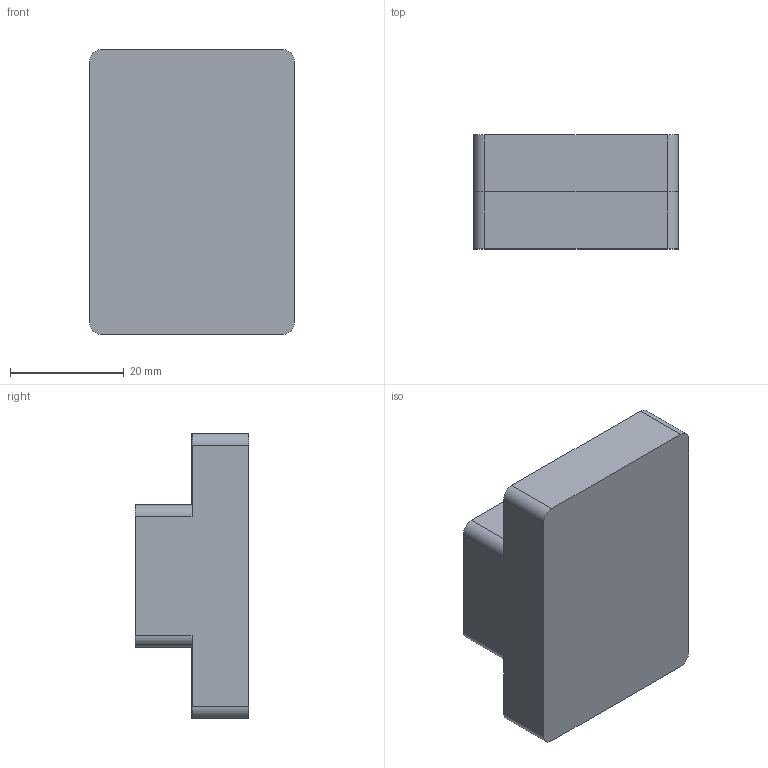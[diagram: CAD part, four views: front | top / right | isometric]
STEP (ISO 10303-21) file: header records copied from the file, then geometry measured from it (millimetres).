
FILE_DESCRIPTION (( 'STEP AP214' ), '1' );
FILE_NAME ('Example Press Out Tool FM and GM.STEP', '2025-02-24T16:01:03', ( '' ), ( '' ), 'SwSTEP 2.0', 'SolidWorks 2024', '' );
FILE_SCHEMA (( 'AUTOMOTIVE_DESIGN' ));
Length unit declared in the file: millimetre
Products named in the file (1): Example Press Out Tool FM and GM
Bounding box: 36 x 20 x 50 mm (x, y, z)
Volume: 26931.3 mm3; surface area: 6464.5 mm2
Topology: 1 solids, 1 shells, 18 faces, 48 edges, 32 vertices
Faces by surface type: plane 10, cylinder 8
Entity records: 591 total; most frequent: DIRECTION 102, CARTESIAN_POINT 99, ORIENTED_EDGE 96, EDGE_CURVE 48, AXIS2_PLACEMENT_3D 35, LINE 32, VECTOR 32, VERTEX_POINT 32
